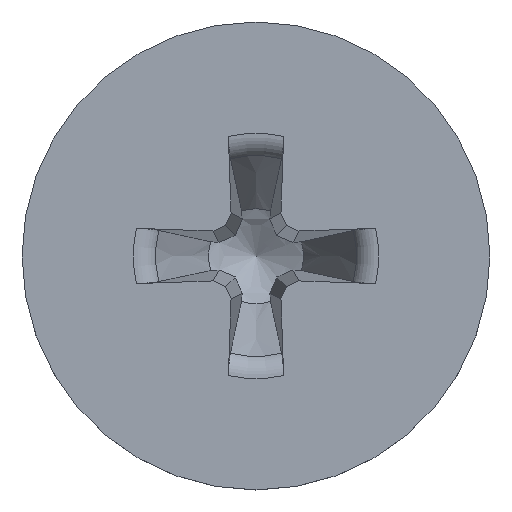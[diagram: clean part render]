
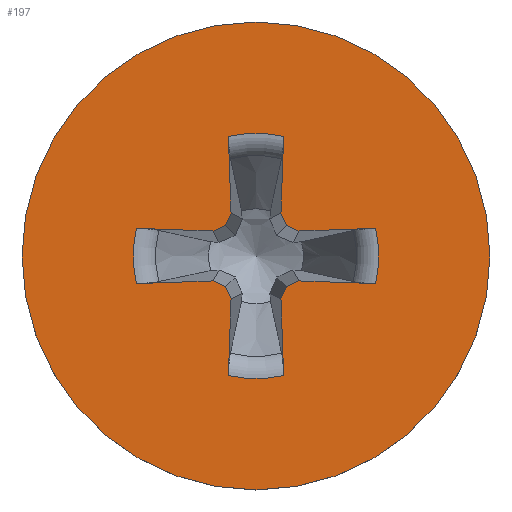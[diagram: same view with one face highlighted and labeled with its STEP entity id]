
A CAD part, top view. The second image highlights one B-rep face of the part: STEP entity #197.
In plain terms, the highlighted planar face has unit normal (0, 0, 1).
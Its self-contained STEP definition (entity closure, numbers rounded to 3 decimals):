
#56=PLANE('',#969);
#74=LINE('',#1836,#120);
#75=LINE('',#1841,#121);
#76=LINE('',#1843,#122);
#77=LINE('',#1845,#123);
#78=LINE('',#1847,#124);
#79=LINE('',#1851,#125);
#80=LINE('',#1853,#126);
#81=LINE('',#1855,#127);
#82=LINE('',#1857,#128);
#83=LINE('',#1861,#129);
#84=LINE('',#1863,#130);
#85=LINE('',#1865,#131);
#86=LINE('',#1867,#132);
#87=LINE('',#1871,#133);
#88=LINE('',#1873,#134);
#89=LINE('',#1875,#135);
#120=VECTOR('',#1031,1.);
#121=VECTOR('',#1034,1.);
#122=VECTOR('',#1035,1.);
#123=VECTOR('',#1036,1.);
#124=VECTOR('',#1037,1.);
#125=VECTOR('',#1040,1.);
#126=VECTOR('',#1041,1.);
#127=VECTOR('',#1042,1.);
#128=VECTOR('',#1043,1.);
#129=VECTOR('',#1046,1.);
#130=VECTOR('',#1047,1.);
#131=VECTOR('',#1048,1.);
#132=VECTOR('',#1049,1.);
#133=VECTOR('',#1052,1.);
#134=VECTOR('',#1053,1.);
#135=VECTOR('',#1054,1.);
#174=FACE_BOUND('',#306,.T.);
#175=FACE_BOUND('',#307,.T.);
#197=ADVANCED_FACE('',(#174,#175),#56,.F.);
#306=EDGE_LOOP('',(#409));
#307=EDGE_LOOP('',(#410,#411,#412,#413,#414,#415,#416,#417,#418,#419,#420,
#421,#422,#423,#424,#425,#426,#427,#428,#429));
#368=CIRCLE('',#964,5.65);
#369=CIRCLE('',#965,2.965);
#370=CIRCLE('',#966,2.965);
#371=CIRCLE('',#967,2.965);
#372=CIRCLE('',#968,2.965);
#409=ORIENTED_EDGE('',*,*,#771,.T.);
#410=ORIENTED_EDGE('',*,*,#772,.F.);
#411=ORIENTED_EDGE('',*,*,#773,.T.);
#412=ORIENTED_EDGE('',*,*,#774,.F.);
#413=ORIENTED_EDGE('',*,*,#775,.F.);
#414=ORIENTED_EDGE('',*,*,#776,.F.);
#415=ORIENTED_EDGE('',*,*,#777,.F.);
#416=ORIENTED_EDGE('',*,*,#778,.T.);
#417=ORIENTED_EDGE('',*,*,#779,.F.);
#418=ORIENTED_EDGE('',*,*,#780,.F.);
#419=ORIENTED_EDGE('',*,*,#781,.F.);
#420=ORIENTED_EDGE('',*,*,#782,.F.);
#421=ORIENTED_EDGE('',*,*,#783,.T.);
#422=ORIENTED_EDGE('',*,*,#784,.F.);
#423=ORIENTED_EDGE('',*,*,#785,.F.);
#424=ORIENTED_EDGE('',*,*,#786,.F.);
#425=ORIENTED_EDGE('',*,*,#787,.F.);
#426=ORIENTED_EDGE('',*,*,#788,.T.);
#427=ORIENTED_EDGE('',*,*,#789,.F.);
#428=ORIENTED_EDGE('',*,*,#790,.F.);
#429=ORIENTED_EDGE('',*,*,#791,.F.);
#679=VERTEX_POINT('',#1835);
#680=VERTEX_POINT('',#1837);
#681=VERTEX_POINT('',#1838);
#682=VERTEX_POINT('',#1840);
#683=VERTEX_POINT('',#1842);
#684=VERTEX_POINT('',#1844);
#685=VERTEX_POINT('',#1846);
#686=VERTEX_POINT('',#1848);
#687=VERTEX_POINT('',#1850);
#688=VERTEX_POINT('',#1852);
#689=VERTEX_POINT('',#1854);
#690=VERTEX_POINT('',#1856);
#691=VERTEX_POINT('',#1858);
#692=VERTEX_POINT('',#1860);
#693=VERTEX_POINT('',#1862);
#694=VERTEX_POINT('',#1864);
#695=VERTEX_POINT('',#1866);
#696=VERTEX_POINT('',#1868);
#697=VERTEX_POINT('',#1870);
#698=VERTEX_POINT('',#1872);
#699=VERTEX_POINT('',#1874);
#771=EDGE_CURVE('',#679,#679,#368,.T.);
#772=EDGE_CURVE('',#680,#681,#74,.T.);
#773=EDGE_CURVE('',#680,#682,#369,.T.);
#774=EDGE_CURVE('',#683,#682,#75,.T.);
#775=EDGE_CURVE('',#684,#683,#76,.T.);
#776=EDGE_CURVE('',#685,#684,#77,.T.);
#777=EDGE_CURVE('',#686,#685,#78,.T.);
#778=EDGE_CURVE('',#686,#687,#370,.T.);
#779=EDGE_CURVE('',#688,#687,#79,.T.);
#780=EDGE_CURVE('',#689,#688,#80,.T.);
#781=EDGE_CURVE('',#690,#689,#81,.T.);
#782=EDGE_CURVE('',#691,#690,#82,.T.);
#783=EDGE_CURVE('',#691,#692,#371,.T.);
#784=EDGE_CURVE('',#693,#692,#83,.T.);
#785=EDGE_CURVE('',#694,#693,#84,.T.);
#786=EDGE_CURVE('',#695,#694,#85,.T.);
#787=EDGE_CURVE('',#696,#695,#86,.T.);
#788=EDGE_CURVE('',#696,#697,#372,.T.);
#789=EDGE_CURVE('',#698,#697,#87,.T.);
#790=EDGE_CURVE('',#699,#698,#88,.T.);
#791=EDGE_CURVE('',#681,#699,#89,.T.);
#964=AXIS2_PLACEMENT_3D('',#1834,#1029,#1030);
#965=AXIS2_PLACEMENT_3D('',#1839,#1032,#1033);
#966=AXIS2_PLACEMENT_3D('',#1849,#1038,#1039);
#967=AXIS2_PLACEMENT_3D('',#1859,#1044,#1045);
#968=AXIS2_PLACEMENT_3D('',#1869,#1050,#1051);
#969=AXIS2_PLACEMENT_3D('',#1876,#1055,#1056);
#1029=DIRECTION('',(0.,0.,1.));
#1030=DIRECTION('',(1.,0.,0.));
#1031=DIRECTION('',(-0.999,-0.035,0.));
#1032=DIRECTION('',(0.,0.,-1.));
#1033=DIRECTION('',(-1.,0.,0.));
#1034=DIRECTION('',(0.999,-0.035,0.));
#1035=DIRECTION('',(0.906,0.423,0.));
#1036=DIRECTION('',(0.423,0.906,0.));
#1037=DIRECTION('',(-0.035,0.999,0.));
#1038=DIRECTION('',(0.,0.,-1.));
#1039=DIRECTION('',(-1.,0.,0.));
#1040=DIRECTION('',(-0.035,-0.999,0.));
#1041=DIRECTION('',(0.423,-0.906,0.));
#1042=DIRECTION('',(0.906,-0.423,0.));
#1043=DIRECTION('',(0.999,0.035,0.));
#1044=DIRECTION('',(0.,0.,-1.));
#1045=DIRECTION('',(-1.,0.,0.));
#1046=DIRECTION('',(-0.999,0.035,0.));
#1047=DIRECTION('',(-0.906,-0.423,0.));
#1048=DIRECTION('',(-0.423,-0.906,0.));
#1049=DIRECTION('',(0.035,-0.999,0.));
#1050=DIRECTION('',(0.,0.,-1.));
#1051=DIRECTION('',(-1.,0.,0.));
#1052=DIRECTION('',(0.035,0.999,0.));
#1053=DIRECTION('',(-0.423,0.906,0.));
#1054=DIRECTION('',(-0.906,0.423,0.));
#1055=DIRECTION('',(0.,0.,-1.));
#1056=DIRECTION('',(-1.,0.,0.));
#1834=CARTESIAN_POINT('',(0.,0.,4.485));
#1835=CARTESIAN_POINT('',(5.65,0.,4.485));
#1836=CARTESIAN_POINT('',(0.177,0.572,4.485));
#1837=CARTESIAN_POINT('',(2.889,0.667,4.485));
#1838=CARTESIAN_POINT('',(1.035,0.602,4.485));
#1839=CARTESIAN_POINT('',(0.,0.,4.485));
#1840=CARTESIAN_POINT('',(2.889,-0.667,4.485));
#1841=CARTESIAN_POINT('',(-0.217,-0.559,4.485));
#1842=CARTESIAN_POINT('',(1.035,-0.602,4.485));
#1843=CARTESIAN_POINT('',(2.58,0.118,4.485));
#1844=CARTESIAN_POINT('',(0.74,-0.74,4.485));
#1845=CARTESIAN_POINT('',(3.055,4.225,4.485));
#1846=CARTESIAN_POINT('',(0.602,-1.035,4.485));
#1847=CARTESIAN_POINT('',(0.368,5.663,4.485));
#1848=CARTESIAN_POINT('',(0.667,-2.889,4.485));
#1849=CARTESIAN_POINT('',(0.,0.,4.485));
#1850=CARTESIAN_POINT('',(-0.667,-2.889,4.485));
#1851=CARTESIAN_POINT('',(-0.368,5.663,4.485));
#1852=CARTESIAN_POINT('',(-0.602,-1.035,4.485));
#1853=CARTESIAN_POINT('',(-3.055,4.225,4.485));
#1854=CARTESIAN_POINT('',(-0.74,-0.74,4.485));
#1855=CARTESIAN_POINT('',(-2.58,0.118,4.485));
#1856=CARTESIAN_POINT('',(-1.035,-0.602,4.485));
#1857=CARTESIAN_POINT('',(0.217,-0.559,4.485));
#1858=CARTESIAN_POINT('',(-2.889,-0.667,4.485));
#1859=CARTESIAN_POINT('',(0.,0.,4.485));
#1860=CARTESIAN_POINT('',(-2.889,0.667,4.485));
#1861=CARTESIAN_POINT('',(-0.177,0.572,4.485));
#1862=CARTESIAN_POINT('',(-1.035,0.602,4.485));
#1863=CARTESIAN_POINT('',(1.749,1.9,4.485));
#1864=CARTESIAN_POINT('',(-0.74,0.74,4.485));
#1865=CARTESIAN_POINT('',(1.273,5.056,4.485));
#1866=CARTESIAN_POINT('',(-0.602,1.035,4.485));
#1867=CARTESIAN_POINT('',(-0.763,5.623,4.485));
#1868=CARTESIAN_POINT('',(-0.667,2.889,4.485));
#1869=CARTESIAN_POINT('',(0.,0.,4.485));
#1870=CARTESIAN_POINT('',(0.667,2.889,4.485));
#1871=CARTESIAN_POINT('',(0.763,5.623,4.485));
#1872=CARTESIAN_POINT('',(0.602,1.035,4.485));
#1873=CARTESIAN_POINT('',(-1.273,5.056,4.485));
#1874=CARTESIAN_POINT('',(0.74,0.74,4.485));
#1875=CARTESIAN_POINT('',(-1.749,1.9,4.485));
#1876=CARTESIAN_POINT('',(0.,5.65,4.485));
